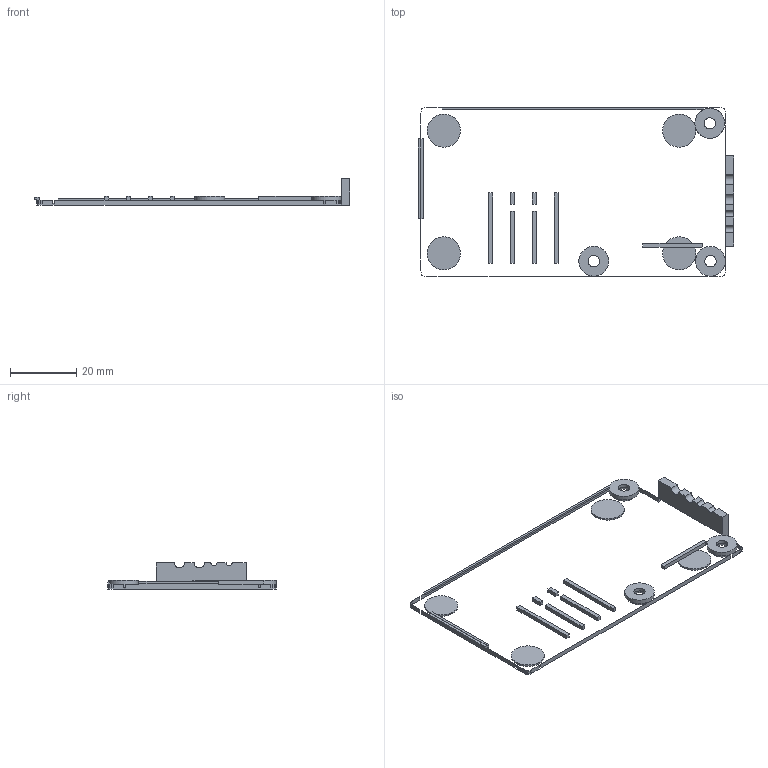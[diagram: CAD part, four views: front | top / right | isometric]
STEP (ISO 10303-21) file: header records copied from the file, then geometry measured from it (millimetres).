
FILE_DESCRIPTION(('Open CASCADE Model'),'2;1');
FILE_NAME('Open CASCADE Shape Model','2026-10-14T06:59:40',('Author'),( 'Open CASCADE'),'Open CASCADE STEP processor 7.9','Open CASCADE 7.9' ,'Unknown');
FILE_SCHEMA(('AUTOMOTIVE_DESIGN { 1 0 10303 214 1 1 1 1 }'));
Length unit declared in the file: millimetre
Products named in the file (1): Open CASCADE STEP translator 7.9 2
Bounding box: 95.3 x 50.9 x 7.9 mm (x, y, z)
Surface area: 2318.1 mm2 (no closed solid volume)
Topology: 0 solids, 21 shells, 121 faces, 323 edges, 226 vertices
Faces by surface type: plane 103, cylinder 18
Full cylindrical faces by diameter (mm): 3.4 x3, 6.2 x3, 9 x3, 10 x4
Entity records: 7018 total; most frequent: CARTESIAN_POINT 1329, DIRECTION 1081, LINE 761, VECTOR 761, ORIENTED_EDGE 502, PCURVE 502, DEFINITIONAL_REPRESENTATION 502, EDGE_CURVE 323
